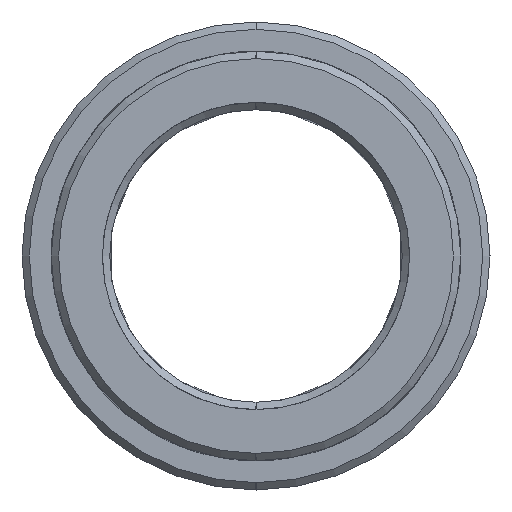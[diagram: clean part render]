
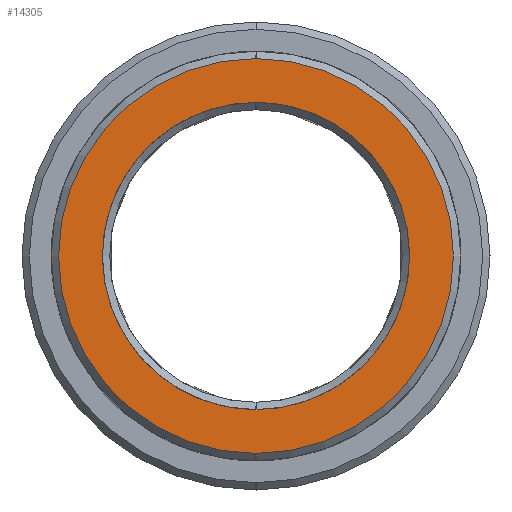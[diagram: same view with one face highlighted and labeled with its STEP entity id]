
A CAD part, left-side view. The second image highlights one B-rep face of the part: STEP entity #14305.
In plain terms, the highlighted planar face has unit normal (1, 0, 0).
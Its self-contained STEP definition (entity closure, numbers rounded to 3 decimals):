
#14222=CARTESIAN_POINT('Axis2P3D Location',(-16.,0.,0.)) ;
#14227=CARTESIAN_POINT('Axis2P3D Location',(-16.,0.,0.)) ;
#14231=CARTESIAN_POINT('Vertex',(-16.,0.,13.5)) ;
#14233=CARTESIAN_POINT('Vertex',(-16.,0.,-13.5)) ;
#14236=CARTESIAN_POINT('Axis2P3D Location',(-16.,0.,0.)) ;
#14246=CARTESIAN_POINT('Control Point',(-16.,0.,10.5)) ;
#14247=CARTESIAN_POINT('Control Point',(-16.,0.952,10.5)) ;
#14248=CARTESIAN_POINT('Control Point',(-16.,1.905,10.392)) ;
#14249=CARTESIAN_POINT('Control Point',(-16.,2.841,10.176)) ;
#14250=CARTESIAN_POINT('Control Point',(-16.,4.648,9.535)) ;
#14251=CARTESIAN_POINT('Control Point',(-16.,6.266,8.507)) ;
#14252=CARTESIAN_POINT('Control Point',(-16.,7.013,7.902)) ;
#14253=CARTESIAN_POINT('Control Point',(-16.,8.356,6.535)) ;
#14254=CARTESIAN_POINT('Control Point',(-16.,9.36,4.901)) ;
#14255=CARTESIAN_POINT('Control Point',(-16.,9.766,4.031)) ;
#14256=CARTESIAN_POINT('Control Point',(-16.,10.375,2.213)) ;
#14257=CARTESIAN_POINT('Control Point',(-16.,10.561,0.305)) ;
#14258=CARTESIAN_POINT('Control Point',(-16.,10.545,-0.656)) ;
#14259=CARTESIAN_POINT('Control Point',(-16.,10.295,-2.557)) ;
#14260=CARTESIAN_POINT('Control Point',(-16.,9.626,-4.354)) ;
#14261=CARTESIAN_POINT('Control Point',(-16.,9.191,-5.21)) ;
#14262=CARTESIAN_POINT('Control Point',(-16.,8.134,-6.809)) ;
#14263=CARTESIAN_POINT('Control Point',(-16.,6.746,-8.131)) ;
#14264=CARTESIAN_POINT('Control Point',(-16.,5.979,-8.711)) ;
#14265=CARTESIAN_POINT('Control Point',(-16.,4.389,-9.649)) ;
#14266=CARTESIAN_POINT('Control Point',(-16.,2.635,-10.222)) ;
#14267=CARTESIAN_POINT('Control Point',(-16.,1.765,-10.407)) ;
#14268=CARTESIAN_POINT('Control Point',(-16.,0.883,-10.5)) ;
#14269=CARTESIAN_POINT('Control Point',(-16.,0.,-10.5)) ;
#14270=CARTESIAN_POINT('Vertex',(-16.,0.,10.5)) ;
#14272=CARTESIAN_POINT('Vertex',(-16.,0.,-10.5)) ;
#14276=CARTESIAN_POINT('Control Point',(-16.,0.,-10.5)) ;
#14277=CARTESIAN_POINT('Control Point',(-16.,-0.952,-10.5)) ;
#14278=CARTESIAN_POINT('Control Point',(-16.,-1.905,-10.392)) ;
#14279=CARTESIAN_POINT('Control Point',(-16.,-2.841,-10.176)) ;
#14280=CARTESIAN_POINT('Control Point',(-16.,-4.648,-9.535)) ;
#14281=CARTESIAN_POINT('Control Point',(-16.,-6.266,-8.507)) ;
#14282=CARTESIAN_POINT('Control Point',(-16.,-7.013,-7.902)) ;
#14283=CARTESIAN_POINT('Control Point',(-16.,-8.356,-6.535)) ;
#14284=CARTESIAN_POINT('Control Point',(-16.,-9.36,-4.901)) ;
#14285=CARTESIAN_POINT('Control Point',(-16.,-9.766,-4.031)) ;
#14286=CARTESIAN_POINT('Control Point',(-16.,-10.375,-2.213)) ;
#14287=CARTESIAN_POINT('Control Point',(-16.,-10.561,-0.305)) ;
#14288=CARTESIAN_POINT('Control Point',(-16.,-10.545,0.656)) ;
#14289=CARTESIAN_POINT('Control Point',(-16.,-10.295,2.557)) ;
#14290=CARTESIAN_POINT('Control Point',(-16.,-9.626,4.354)) ;
#14291=CARTESIAN_POINT('Control Point',(-16.,-9.191,5.21)) ;
#14292=CARTESIAN_POINT('Control Point',(-16.,-8.134,6.809)) ;
#14293=CARTESIAN_POINT('Control Point',(-16.,-6.746,8.131)) ;
#14294=CARTESIAN_POINT('Control Point',(-16.,-5.979,8.711)) ;
#14295=CARTESIAN_POINT('Control Point',(-16.,-4.389,9.649)) ;
#14296=CARTESIAN_POINT('Control Point',(-16.,-2.635,10.222)) ;
#14297=CARTESIAN_POINT('Control Point',(-16.,-1.765,10.407)) ;
#14298=CARTESIAN_POINT('Control Point',(-16.,-0.883,10.5)) ;
#14299=CARTESIAN_POINT('Control Point',(-16.,0.,10.5)) ;
#14223=DIRECTION('Axis2P3D Direction',(1.,0.,0.)) ;
#14224=DIRECTION('Axis2P3D XDirection',(0.,1.,0.)) ;
#14228=DIRECTION('Axis2P3D Direction',(1.,0.,0.)) ;
#14237=DIRECTION('Axis2P3D Direction',(1.,0.,0.)) ;
#14225=AXIS2_PLACEMENT_3D('Plane Axis2P3D',#14222,#14223,#14224) ;
#14229=AXIS2_PLACEMENT_3D('Circle Axis2P3D',#14227,#14228,$) ;
#14238=AXIS2_PLACEMENT_3D('Circle Axis2P3D',#14236,#14237,$) ;
#14242=ORIENTED_EDGE('',*,*,#14235,.T.) ;
#14243=ORIENTED_EDGE('',*,*,#14240,.T.) ;
#14302=ORIENTED_EDGE('',*,*,#14274,.T.) ;
#14303=ORIENTED_EDGE('',*,*,#14300,.T.) ;
#14304=FACE_BOUND('',#14301,.T.) ;
#14305=ADVANCED_FACE('MANIFOLD_SOLID_BREP #9169',(#14244,#14304),#14226,.T.) ;
#14245=B_SPLINE_CURVE_WITH_KNOTS('',5,(#14246,#14247,#14248,#14249,#14250,#14251,#14252,#14253,#14254,#14255,#14256,#14257,#14258,#14259,#14260,#14261,#14262,#14263,#14264,#14265,#14266,#14267,#14268,#14269),.UNSPECIFIED.,.F.,.U.,(6,3,3,3,3,3,3,6),(0.,6.735,13.47,20.205,26.94,33.675,40.41,46.65),.UNSPECIFIED.) ;
#14275=B_SPLINE_CURVE_WITH_KNOTS('',5,(#14276,#14277,#14278,#14279,#14280,#14281,#14282,#14283,#14284,#14285,#14286,#14287,#14288,#14289,#14290,#14291,#14292,#14293,#14294,#14295,#14296,#14297,#14298,#14299),.UNSPECIFIED.,.F.,.U.,(6,3,3,3,3,3,3,6),(0.,6.735,13.47,20.205,26.94,33.675,40.41,46.65),.UNSPECIFIED.) ;
#14230=CIRCLE('generated circle',#14229,13.5) ;
#14239=CIRCLE('generated circle',#14238,13.5) ;
#14235=EDGE_CURVE('',#14232,#14234,#14230,.T.) ;
#14240=EDGE_CURVE('',#14234,#14232,#14239,.T.) ;
#14274=EDGE_CURVE('',#14271,#14273,#14245,.T.) ;
#14300=EDGE_CURVE('',#14273,#14271,#14275,.T.) ;
#14241=EDGE_LOOP('',(#14242,#14243)) ;
#14301=EDGE_LOOP('',(#14302,#14303)) ;
#14244=FACE_OUTER_BOUND('',#14241,.T.) ;
#14226=PLANE('Plane',#14225) ;
#14232=VERTEX_POINT('',#14231) ;
#14234=VERTEX_POINT('',#14233) ;
#14271=VERTEX_POINT('',#14270) ;
#14273=VERTEX_POINT('',#14272) ;
